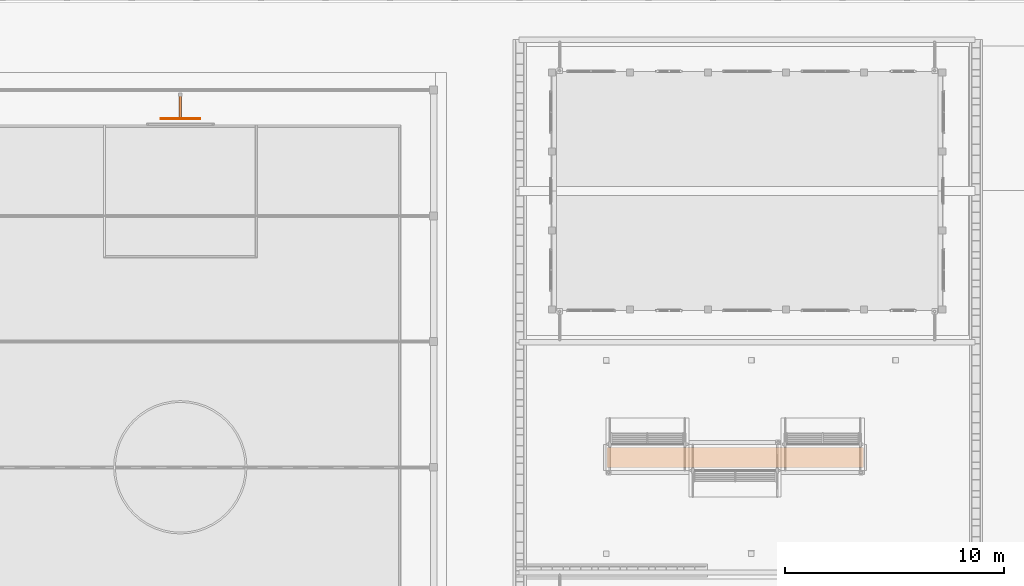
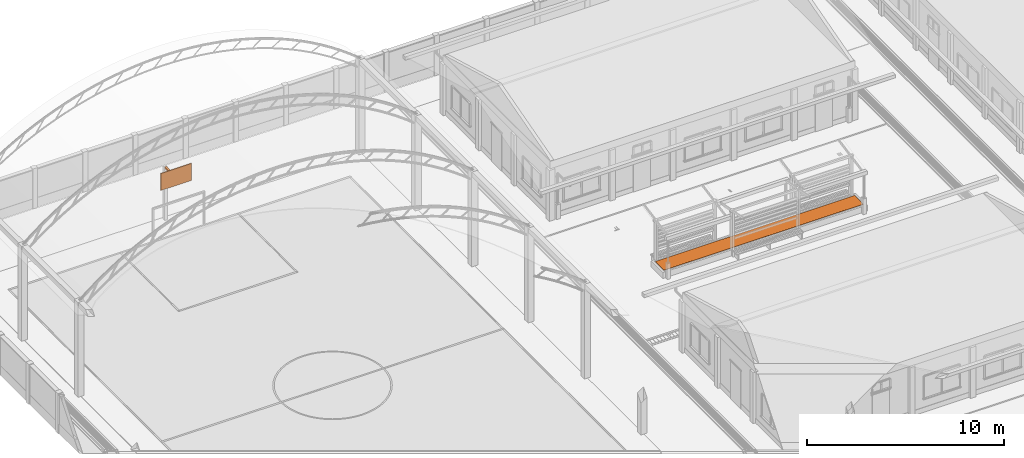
# One storey, part 151 of 151: 3 proxies.
"""IFC2X3 building model written with IfcOpenShell, lengths in metres."""

from ifc_helpers import new_model, si_unit, origin, origin_with_axes, place, context, subcontext, project, spatial, faceted_brep, element, save


model = new_model("IFC2X3")

# Units and contexts
model_context = context("Model", 3, precision=1e-05, world=origin_with_axes())
body_context = subcontext(model_context, "Body", "Model", "MODEL_VIEW")
ifc_project = project(units=[si_unit("LENGTHUNIT", "METRE"), si_unit("AREAUNIT", "SQUARE_METRE"), si_unit("VOLUMEUNIT", "CUBIC_METRE"), si_unit("PLANEANGLEUNIT", "RADIAN")], contexts=[model_context])

# Site, building, storey
site_placement = place(None, origin_with_axes())
site = spatial("IfcSite", under=ifc_project, at=site_placement, Name="Predio Los Mangos - Morales, San Martín", CompositionType="ELEMENT")
building_placement = place(site_placement, origin())
building = spatial("IfcBuilding", under=site, at=building_placement, Name="Hogar de Refugio Temporal", CompositionType="ELEMENT")
storey_placement = place(building_placement, origin())
storey = spatial("IfcBuildingStorey", under=building, at=storey_placement, Name="NIVEL 1 (NPT +0.00)", CompositionType="ELEMENT", Elevation=0.0)

# Proxies
proxy_1_placement = place(storey_placement, origin())
element("IfcBuildingElementProxy", 1, at=proxy_1_placement, inside=storey, Name="tablero", ObjectType="Losa deportiva y vía", context=body_context, shape_type="Brep", body=[
    faceted_brep([(14.15, 125.68, 2.9), (14.15, 125.72, 2.9), (15.95, 125.72, 2.9), (15.95, 125.68, 2.9), (14.15, 125.68, 3.95), (15.95, 125.68, 3.95), (15.95, 125.72, 3.95), (14.15, 125.72, 3.95)], [[[0, 1, 2, 3]], [[4, 5, 6, 7]], [[0, 3, 5, 4]], [[3, 2, 6, 5]], [[2, 1, 7, 6]], [[1, 0, 4, 7]]]),
])
proxy_2_placement = place(storey_placement, origin())
element("IfcBuildingElementProxy", 2, at=proxy_2_placement, inside=storey, Name="brazo", ObjectType="Losa deportiva y vía", context=body_context, shape_type="Brep", body=[
    faceted_brep([(15.0, 125.7, 3.3), (15.0, 126.8, 3.3), (15.1, 126.8, 3.3), (15.1, 125.7, 3.3), (15.0, 125.7, 3.4), (15.1, 125.7, 3.4), (15.1, 126.8, 3.4), (15.0, 126.8, 3.4)], [[[0, 1, 2, 3]], [[4, 5, 6, 7]], [[0, 3, 5, 4]], [[3, 2, 6, 5]], [[2, 1, 7, 6]], [[1, 0, 4, 7]]]),
])
proxy_3_placement = place(storey_placement, origin())
element("IfcBuildingElementProxy", 3, at=proxy_3_placement, inside=storey, Name="pasto_jardinera_2", ObjectType="Área verde", context=body_context, shape_type="Brep", body=[
    faceted_brep([(34.505, 110.7, 0.435), (46.205, 110.7, 0.435), (46.205, 109.8, 0.435), (34.505, 109.8, 0.435), (34.505, 110.7, 0.455), (34.505, 109.8, 0.455), (46.205, 109.8, 0.455), (46.205, 110.7, 0.455)], [[[0, 1, 2, 3]], [[4, 5, 6, 7]], [[4, 7, 1, 0]], [[7, 6, 2, 1]], [[6, 5, 3, 2]], [[5, 4, 0, 3]]]),
])

save(model, "model.ifc")
